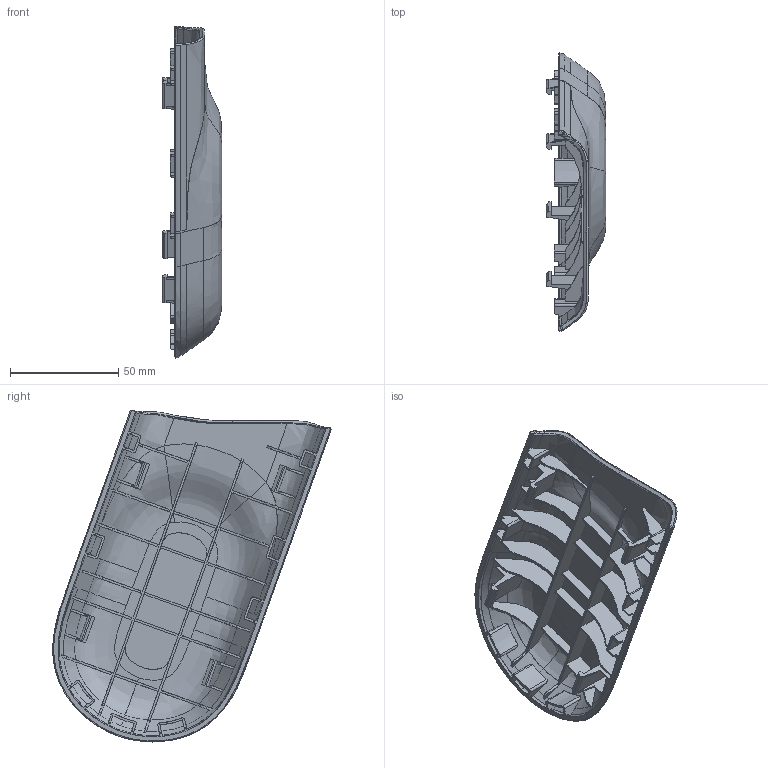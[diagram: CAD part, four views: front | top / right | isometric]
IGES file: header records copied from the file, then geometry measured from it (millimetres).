
Start section:  PTC IGES file: yc_sj_zs001589_01.igs
Global section: file name: yc_sj_zs001589_01.igs; native system: Creo Parametric by PTC Inc.; preprocessor: 2022164; author: casson.cai; organization: Unknown; date: 20260320.104608; units: millimetre
Bounding box: 27.55 x 128.5 x 153.11 mm (x, y, z)
Surface area: 47811 mm2 (no closed solid volume)
Topology: 0 solids, 0 shells, 501 faces, 2936 edges, 2936 vertices
Faces by surface type: bspline 382, revolution 70, extrusion 49
